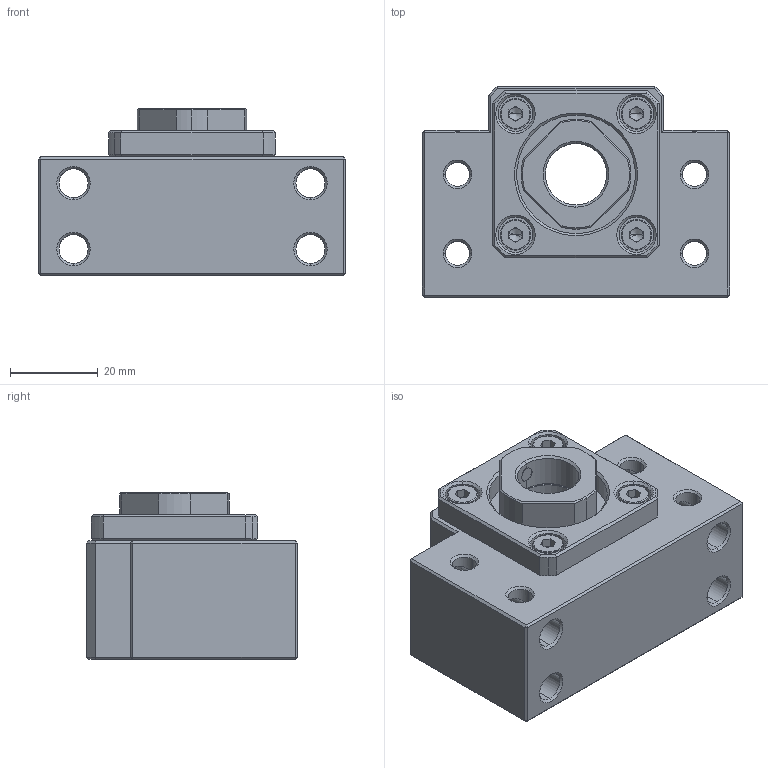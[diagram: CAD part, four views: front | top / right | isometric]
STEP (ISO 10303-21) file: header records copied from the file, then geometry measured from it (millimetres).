
FILE_DESCRIPTION (( 'STEP AP203' ), '1' );
FILE_NAME ('BSGK-15_203.STEP', '2013-02-26T01:18:50', ( '' ), ( '' ), 'SwSTEP 2.0', 'SolidWorks 2012', '' );
FILE_SCHEMA (( 'CONFIG_CONTROL_DESIGN' ));
Length unit declared in the file: millimetre
Products named in the file (1): BSGK-15_203
Bounding box: 70 x 48 x 38 mm (x, y, z)
Volume: 75727.5 mm3; surface area: 23844.1 mm2
Topology: 1 solids, 17 shells, 468 faces, 1085 edges, 634 vertices
Faces by surface type: plane 167, cylinder 141, cone 120, torus 40
Entity records: 14265 total; most frequent: CARTESIAN_POINT 3495, DIRECTION 2344, ORIENTED_EDGE 2134, EDGE_CURVE 1067, AXIS2_PLACEMENT_3D 919, VERTEX_POINT 634, EDGE_LOOP 525, LINE 506
